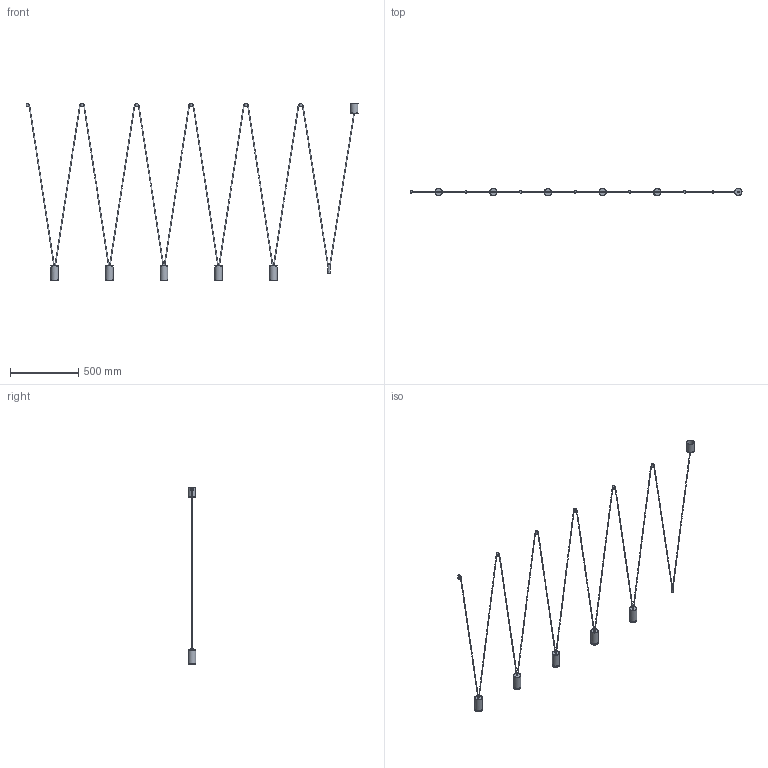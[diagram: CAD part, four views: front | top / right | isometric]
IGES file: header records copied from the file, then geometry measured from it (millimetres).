
Start section: SolidWorks IGES file using NURBS representation for surfaces
Global section: file name: Z:\Modele 3D_WWW\_KOLEKCJE_WWW\MORE-EYE\MORE-EYE-7826-7825-7608\MORE-EYE-7826-7825-7608-LINE PM.IGS; native system: SolidWorks 2021; preprocessor: SolidWorks 2021; author: gabriela.tworek; date: 211119.131033; units: millimetre
Bounding box: 2436.19 x 55.55 x 1305.9 mm (x, y, z)
Surface area: 508334.6 mm2 (no closed solid volume)
Topology: 0 solids, 0 shells, 170 faces, 753 edges, 669 vertices
Faces by surface type: bspline 170
